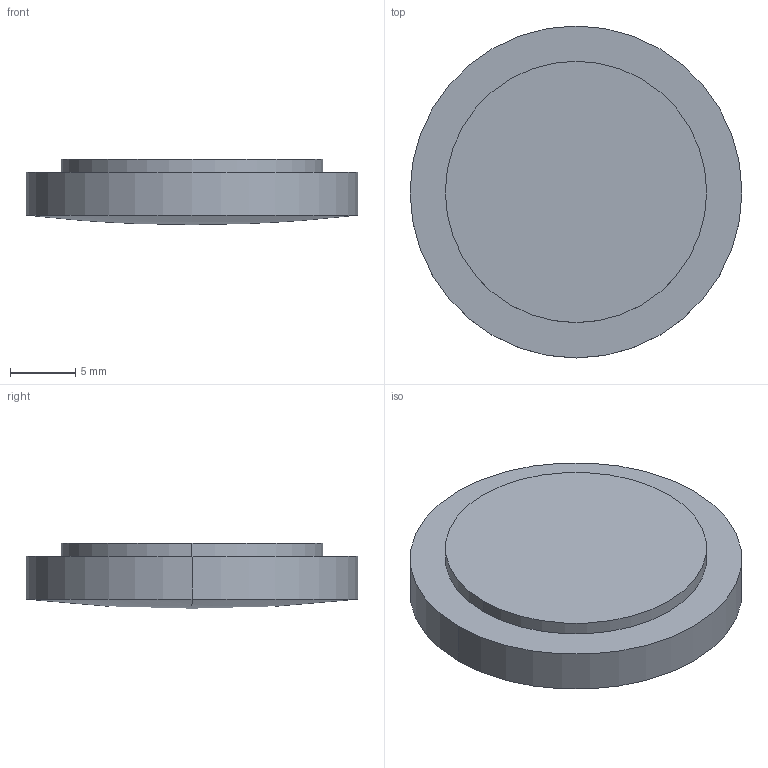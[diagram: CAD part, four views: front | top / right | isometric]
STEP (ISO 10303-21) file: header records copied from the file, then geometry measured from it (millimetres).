
FILE_DESCRIPTION(('STEP AP214'),'1');
FILE_NAME('LLZ-25-80.STEP','2020-03-09T17:42:30',(' '),(' '),'Spatial InterOp 3D',' ',' ');
FILE_SCHEMA(('AUTOMOTIVE_DESIGN { 1 0 10303 214 1 1 1 1 }'));
Length unit declared in the file: millimetre
Products named in the file (1): 1
Bounding box: 25.4 x 25.4 x 5 mm (x, y, z)
Volume: 2157.5 mm3; surface area: 1967.5 mm2
Topology: 2 solids, 2 shells, 9 faces, 16 edges, 9 vertices
Faces by surface type: cylinder 4, plane 3, sphere 2
Entity records: 229 total; most frequent: DIRECTION 46, CARTESIAN_POINT 34, ORIENTED_EDGE 28, AXIS2_PLACEMENT_3D 21, EDGE_CURVE 14, CIRCLE 10, ADVANCED_FACE 9, FACE_OUTER_BOUND 9
